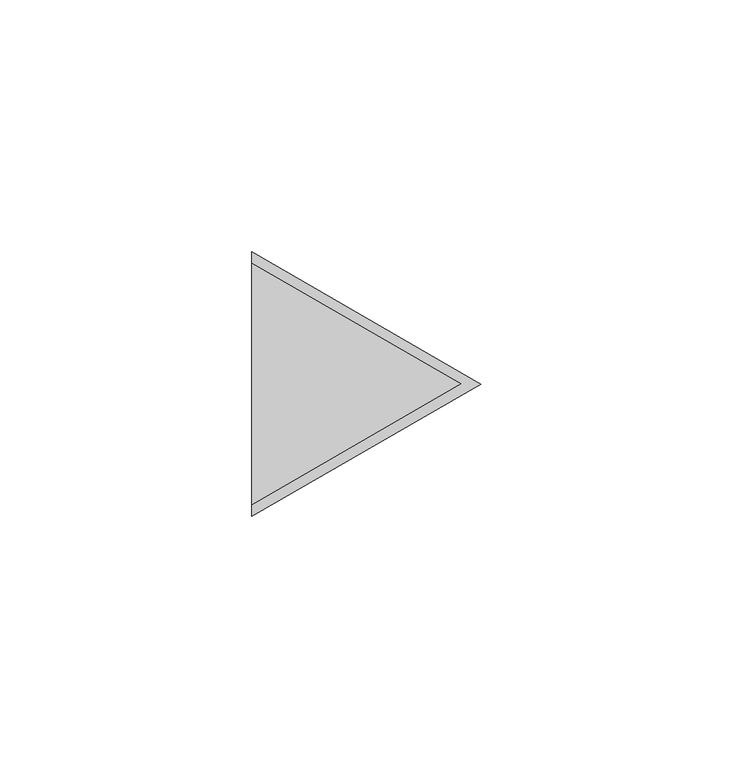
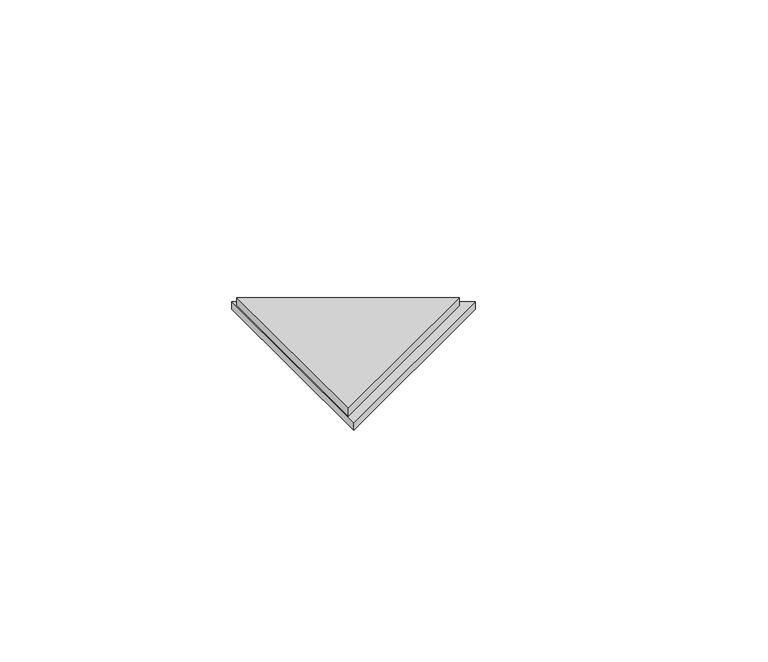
"""IFC4 building model written with IfcOpenShell, lengths in millimetres: proxy geometry, PBSHOP - CUBICA ARGENTO 4,8X8,3 : CUBICA ARGENTO - POSIÇÃO 03."""

from ifc_helpers import new_model, si_unit, origin, place, context, project, spatial, faceted_brep, source, transform, mapped, element, save


def generic_models_45888c4d(model_context):
    return source(origin(), model_context, "Body", "Brep", [
        faceted_brep([(0.0, -26.3094011, 2.0), (45.5692194, 0.0, 2.0), (0.0, 26.3094011, 2.0), (0.0, 26.3094011, 0.0), (45.5692194, 0.0, 0.0), (0.0, -26.3094011, 0.0)], [[[0, 1, 2]], [[3, 4, 5]], [[1, 0, 5, 4]], [[2, 1, 4, 3]], [[0, 2, 3, 5]]]),
        faceted_brep([(0.0, -24.0, 4.5), (41.5692194, 0.0, 4.5), (0.0, 24.0, 4.5), (0.0, 24.0, 2.0), (41.5692194, 0.0, 2.0), (0.0, -24.0, 2.0)], [[[0, 1, 2]], [[3, 4, 5]], [[1, 0, 5, 4]], [[2, 1, 4, 3]], [[0, 2, 3, 5]]]),
    ])


if __name__ == "__main__":
    model = new_model("IFC4")
    model_context = context("Model", 3, world=origin())
    ifc_project = project(units=[si_unit("LENGTHUNIT", "METRE", prefix="MILLI")], contexts=[model_context])
    site = spatial("IfcSite", under=ifc_project)
    building = spatial("IfcBuilding", under=site)
    placement = place(None, origin())
    generic_models_shape = generic_models_45888c4d(model_context)
    element("IfcBuildingElementProxy", 1, Name="PBSHOP - CUBICA ARGENTO 4,8X8,3 : CUBICA ARGENTO - POSIÇÃO 03", ObjectType="PBSHOP - CUBICA ARGENTO 4,8X8,3 : CUBICA ARGENTO - POSIÇÃO 03", at=placement, inside=building, context=model_context, shape_type="MappedRepresentation", body=[
        mapped(generic_models_shape, transform((0.0, 0.0, 0.0), x_axis=(1.0, 0.0, 0.0), y_axis=(0.0, 1.0, 0.0), z_axis=(0.0, 0.0, 1.0))),
    ])
    save(model, "model.ifc")
